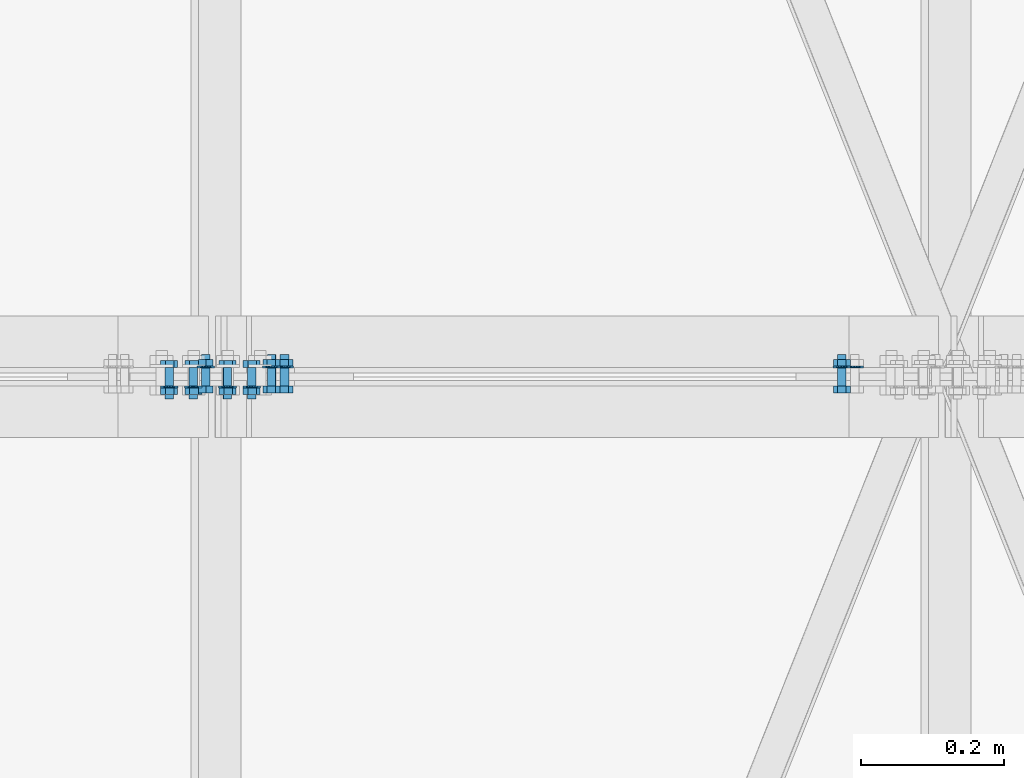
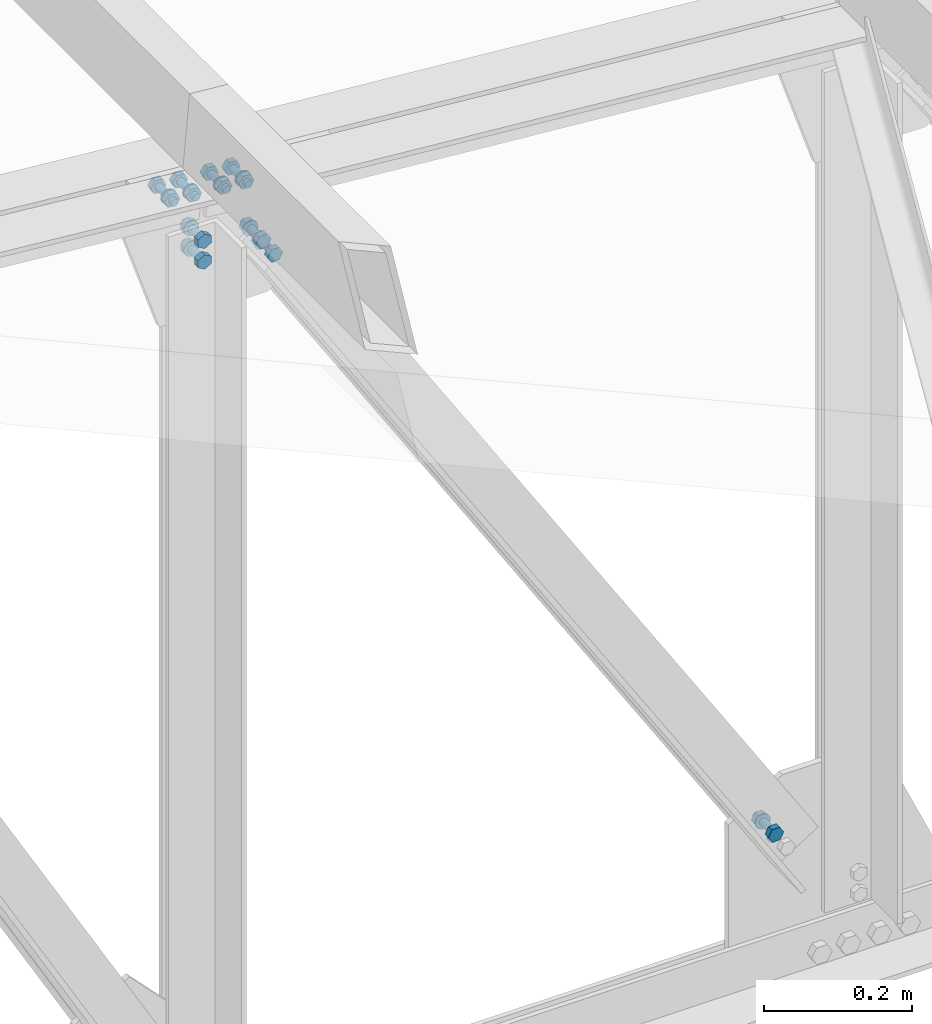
# One storey, part 85 of 251: 37 mechanical fasteners.
"""IFC4 building model written with IfcOpenShell, lengths in metres."""

from ifc_helpers import new_model, si_unit, frame, origin_with_axes, place, context, project, spatial, polyline, outline, extrude, type_object, element, save


model = new_model("IFC4")

# Units and contexts
model_context = context("Model", 3, precision=1e-05, world=origin_with_axes())
ifc_project = project(units=[si_unit("LENGTHUNIT", "METRE"), si_unit("AREAUNIT", "SQUARE_METRE"), si_unit("VOLUMEUNIT", "CUBIC_METRE"), si_unit("MASSUNIT", "GRAM", prefix="KILO"), si_unit("TIMEUNIT", "SECOND"), si_unit("PLANEANGLEUNIT", "RADIAN"), si_unit("SOLIDANGLEUNIT", "STERADIAN"), si_unit("THERMODYNAMICTEMPERATUREUNIT", "DEGREE_CELSIUS")], contexts=[model_context])

# Site, building, storey
placement_1 = place(None, origin_with_axes())
site = spatial("IfcSite", under=ifc_project, at=placement_1, Name="Italia", CompositionType="ELEMENT")
building = spatial("IfcBuilding", under=site, at=placement_1, Name="Deposito", CompositionType="ELEMENT")
storey = spatial("IfcBuildingStorey", under=building, at=placement_1, Name="Storey 0", CompositionType="ELEMENT", Elevation=0.0)

# Mechanical fasteners
mechanical_fastener_type_1 = type_object("IfcMechanicalFastenerType", Name="Reticolare 3", PredefinedType="BOLT")
placement_2 = place(placement_1, origin_with_axes())
mechanical_fastener_1_placement = place(placement_2, origin_with_axes())
element("IfcMechanicalFastener", 1, at=mechanical_fastener_1_placement, inside=storey, type_object=mechanical_fastener_type_1, Name="Reticolare 3", NominalDiameter=0.024, context=model_context, shape_type="SweptSolid", body=[
    extrude(outline(polyline([(0.0, 0.0), (-0.000409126, -0.00310564), (-0.00160789, -0.00600004), (-0.00351524, -0.00848532), (-0.00600052, -0.0103922), (-0.00889397, -0.011591), (-0.0120001, -0.0120001), (-0.0151062, -0.011591), (-0.0179996, -0.0103922), (-0.0204849, -0.00848532), (-0.0223923, -0.00600004), (-0.023591, -0.00310564), (-0.0240002, 0.0), (-0.023591, 0.00310564), (-0.0223923, 0.00600004), (-0.0204849, 0.00848532), (-0.0179996, 0.0103922), (-0.0151062, 0.011591), (-0.0120001, 0.0120001), (-0.00889397, 0.011591), (-0.00600052, 0.0103922), (-0.00351524, 0.00848532), (-0.00160789, 0.00600004), (-0.000409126, 0.00310564), (0.0, 0.0)])), frame((13.9145, 5.015, 5.20248), z_axis=(0.0, -1.0, 0.0), x_axis=(1.0, 0.0, 0.0)), (0.0, 0.0, 1.0), 0.00199986),
])
mechanical_fastener_type_2 = type_object("IfcMechanicalFastenerType", Name="Reticolare 3", PredefinedType="BOLT")
mechanical_fastener_2_placement = place(placement_2, origin_with_axes())
element("IfcMechanicalFastener", 2, at=mechanical_fastener_2_placement, inside=storey, type_object=mechanical_fastener_type_2, Name="Reticolare 3", NominalDiameter=0.0119994, context=model_context, shape_type="SweptSolid", body=[
    extrude(outline(polyline([(0.0, 0.0), (-0.00643444, 0.010129), (-0.000879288, 0.0207663), (0.0111094, 0.0212741), (0.0175438, 0.0111451), (0.0119896, 0.000508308), (0.0, 0.0)])), frame((13.8787, 4.987, 5.22054), z_axis=(0.0, -1.0, 0.0), x_axis=(1.0, 0.0, 0.0)), (0.0, 0.0, 1.0), 0.00960016),
])
mechanical_fastener_type_3 = type_object("IfcMechanicalFastenerType", Name="Reticolare 3", PredefinedType="BOLT")
mechanical_fastener_3_placement = place(placement_2, origin_with_axes())
element("IfcMechanicalFastener", 3, at=mechanical_fastener_3_placement, inside=storey, type_object=mechanical_fastener_type_3, Name="Reticolare 3", NominalDiameter=0.012, context=model_context, shape_type="SweptSolid", body=[
    extrude(outline(polyline([(0.0, 0.0), (-0.000204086, -0.00155306), (-0.000802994, -0.00299978), (-0.00175667, -0.00424242), (-0.00299931, -0.00519609), (-0.00444698, -0.00579548), (-0.00599957, -0.00600004), (-0.00755215, -0.00579548), (-0.00899982, -0.00519609), (-0.0102425, -0.00424242), (-0.0111961, -0.00299978), (-0.011795, -0.00155306), (-0.0119991, 0.0), (-0.011795, 0.00155306), (-0.0111961, 0.00299978), (-0.0102425, 0.00424242), (-0.00899982, 0.00519609), (-0.00755215, 0.00579548), (-0.00599957, 0.00600004), (-0.00444698, 0.00579548), (-0.00299931, 0.00519609), (-0.00175667, 0.00424242), (-0.000802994, 0.00299978), (-0.000204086, 0.00155306), (0.0, 0.0)])), frame((13.8903, 5.031, 5.23117), z_axis=(0.0, -1.0, 0.0), x_axis=(1.0, 0.0, 0.0)), (0.0, 0.0, 1.0), 0.0440001),
])
mechanical_fastener_type_4 = type_object("IfcMechanicalFastenerType", Name="Reticolare 3", PredefinedType="BOLT")
mechanical_fastener_4_placement = place(placement_2, origin_with_axes())
element("IfcMechanicalFastener", 4, at=mechanical_fastener_4_placement, inside=storey, type_object=mechanical_fastener_type_4, Name="Reticolare 3", NominalDiameter=0.0119994, context=model_context, shape_type="SweptSolid", body=[
    extrude(outline(polyline([(0.0, 0.0), (-0.00643444, 0.010129), (-0.000879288, 0.0207663), (0.0111094, 0.0212741), (0.0175438, 0.0111451), (0.0119896, 0.000508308), (0.0, 0.0)])), frame((13.8787, 5.0246, 5.22054), z_axis=(0.0, -1.0, 0.0), x_axis=(1.0, 0.0, 0.0)), (0.0, 0.0, 1.0), 0.00960016),
])
mechanical_fastener_type_5 = type_object("IfcMechanicalFastenerType", Name="Reticolare 3", PredefinedType="BOLT")
mechanical_fastener_5_placement = place(placement_2, origin_with_axes())
element("IfcMechanicalFastener", 5, at=mechanical_fastener_5_placement, inside=storey, type_object=mechanical_fastener_type_5, Name="Reticolare 3", NominalDiameter=0.024, context=model_context, shape_type="SweptSolid", body=[
    extrude(outline(polyline([(0.0, 0.0), (-0.000409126, -0.00310564), (-0.00160789, -0.00600004), (-0.00351524, -0.00848532), (-0.00600052, -0.0103922), (-0.00889397, -0.011591), (-0.0120001, -0.0120001), (-0.0151062, -0.011591), (-0.0179996, -0.0103922), (-0.0204849, -0.00848532), (-0.0223923, -0.00600004), (-0.023591, -0.00310564), (-0.0240002, 0.0), (-0.023591, 0.00310564), (-0.0223923, 0.00600004), (-0.0204849, 0.00848532), (-0.0179996, 0.0103922), (-0.0151062, 0.011591), (-0.0120001, 0.0120001), (-0.00889397, 0.011591), (-0.00600052, 0.0103922), (-0.00351524, 0.00848532), (-0.00160789, 0.00600004), (-0.000409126, 0.00310564), (0.0, 0.0)])), frame((13.8963, 5.015, 5.23117), z_axis=(0.0, -1.0, 0.0), x_axis=(1.0, 0.0, 0.0)), (0.0, 0.0, 1.0), 0.00199986),
])
mechanical_fastener_type_6 = type_object("IfcMechanicalFastenerType", Name="Reticolare 3", PredefinedType="BOLT")
mechanical_fastener_6_placement = place(placement_2, origin_with_axes())
element("IfcMechanicalFastener", 6, at=mechanical_fastener_6_placement, inside=storey, type_object=mechanical_fastener_type_6, Name="Reticolare 3", NominalDiameter=0.0119996, context=model_context, shape_type="SweptSolid", body=[
    extrude(outline(polyline([(0.0, 0.0), (0.0119572, 0.001019), (0.0188179, -0.00882626), (0.0137215, -0.0196905), (0.00176525, -0.0207095), (-0.00509548, -0.0108643), (0.0, 0.0)])), frame((13.0302, 5.013, 6.61092), z_axis=(0.0, 1.0, 0.0), x_axis=(-1.0, 0.0, 0.0)), (0.0, 0.0, 1.0), 0.00960016),
])
mechanical_fastener_type_7 = type_object("IfcMechanicalFastenerType", Name="Reticolare 3", PredefinedType="BOLT")
mechanical_fastener_7_placement = place(placement_2, origin_with_axes())
element("IfcMechanicalFastener", 7, at=mechanical_fastener_7_placement, inside=storey, type_object=mechanical_fastener_type_7, Name="Reticolare 3", NominalDiameter=0.012, context=model_context, shape_type="SweptSolid", body=[
    extrude(outline(polyline([(0.0, 0.0), (-0.000204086, -0.00155306), (-0.000802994, -0.00299978), (-0.00175667, -0.00424242), (-0.00299931, -0.00519609), (-0.00444698, -0.00579548), (-0.00599957, -0.00600004), (-0.00755215, -0.00579548), (-0.00899982, -0.00519609), (-0.0102425, -0.00424242), (-0.0111961, -0.00299978), (-0.011795, -0.00155306), (-0.0119991, 0.0), (-0.011795, 0.00155306), (-0.0111961, 0.00299978), (-0.0102425, 0.00424242), (-0.00899982, 0.00519609), (-0.00755215, 0.00579548), (-0.00599957, 0.00600004), (-0.00444698, 0.00579548), (-0.00299931, 0.00519609), (-0.00175667, 0.00424242), (-0.000802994, 0.00299978), (-0.000204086, 0.00155306), (0.0, 0.0)])), frame((13.0173, 4.969, 6.60108), z_axis=(0.0, 1.0, 0.0), x_axis=(-1.0, 0.0, 0.0)), (0.0, 0.0, 1.0), 0.0440001),
])
mechanical_fastener_type_8 = type_object("IfcMechanicalFastenerType", Name="Reticolare 3", PredefinedType="BOLT")
mechanical_fastener_8_placement = place(placement_2, origin_with_axes())
element("IfcMechanicalFastener", 8, at=mechanical_fastener_8_placement, inside=storey, type_object=mechanical_fastener_type_8, Name="Reticolare 3", NominalDiameter=0.0119996, context=model_context, shape_type="SweptSolid", body=[
    extrude(outline(polyline([(0.0, 0.0), (0.0119572, 0.001019), (0.0188179, -0.00882626), (0.0137215, -0.0196905), (0.00176525, -0.0207095), (-0.00509548, -0.0108643), (0.0, 0.0)])), frame((13.0302, 4.9754, 6.61092), z_axis=(0.0, 1.0, 0.0), x_axis=(-1.0, 0.0, 0.0)), (0.0, 0.0, 1.0), 0.00960016),
])
mechanical_fastener_type_9 = type_object("IfcMechanicalFastenerType", Name="Reticolare 3", PredefinedType="BOLT")
mechanical_fastener_9_placement = place(placement_2, origin_with_axes())
element("IfcMechanicalFastener", 9, at=mechanical_fastener_9_placement, inside=storey, type_object=mechanical_fastener_type_9, Name="Reticolare 3", NominalDiameter=0.024, context=model_context, shape_type="SweptSolid", body=[
    extrude(outline(polyline([(0.0, 0.0), (-0.000409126, -0.00310564), (-0.00160789, -0.00600004), (-0.00351524, -0.00848532), (-0.00600052, -0.0103922), (-0.00889397, -0.011591), (-0.0120001, -0.0120001), (-0.0151062, -0.011591), (-0.0179996, -0.0103922), (-0.0204849, -0.00848532), (-0.0223923, -0.00600004), (-0.023591, -0.00310564), (-0.0240002, 0.0), (-0.023591, 0.00310564), (-0.0223923, 0.00600004), (-0.0204849, 0.00848532), (-0.0179996, 0.0103922), (-0.0151062, 0.011591), (-0.0120001, 0.0120001), (-0.00889397, 0.011591), (-0.00600052, 0.0103922), (-0.00351524, 0.00848532), (-0.00160789, 0.00600004), (-0.000409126, 0.00310564), (0.0, 0.0)])), frame((13.0113, 4.985, 6.60108), z_axis=(0.0, 1.0, 0.0), x_axis=(-1.0, 0.0, 0.0)), (0.0, 0.0, 1.0), 0.00199986),
])
mechanical_fastener_type_10 = type_object("IfcMechanicalFastenerType", Name="Reticolare 3", PredefinedType="BOLT")
mechanical_fastener_10_placement = place(placement_2, origin_with_axes())
element("IfcMechanicalFastener", 10, at=mechanical_fastener_10_placement, inside=storey, type_object=mechanical_fastener_type_10, Name="Reticolare 3", NominalDiameter=0.0119996, context=model_context, shape_type="SweptSolid", body=[
    extrude(outline(polyline([(0.0, 0.0), (0.0119572, 0.001019), (0.0188179, -0.00882626), (0.0137215, -0.0196905), (0.00176525, -0.0207095), (-0.00509548, -0.0108643), (0.0, 0.0)])), frame((13.0641, 5.013, 6.60803), z_axis=(0.0, 1.0, 0.0), x_axis=(-1.0, 0.0, 0.0)), (0.0, 0.0, 1.0), 0.00960016),
])
mechanical_fastener_type_11 = type_object("IfcMechanicalFastenerType", Name="Reticolare 3", PredefinedType="BOLT")
mechanical_fastener_11_placement = place(placement_2, origin_with_axes())
element("IfcMechanicalFastener", 11, at=mechanical_fastener_11_placement, inside=storey, type_object=mechanical_fastener_type_11, Name="Reticolare 3", NominalDiameter=0.012, context=model_context, shape_type="SweptSolid", body=[
    extrude(outline(polyline([(0.0, 0.0), (-0.000204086, -0.00155306), (-0.000802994, -0.00299978), (-0.00175667, -0.00424242), (-0.00299931, -0.00519609), (-0.00444698, -0.00579548), (-0.00599957, -0.00600004), (-0.00755215, -0.00579548), (-0.00899982, -0.00519609), (-0.0102425, -0.00424242), (-0.0111961, -0.00299978), (-0.011795, -0.00155306), (-0.0119991, 0.0), (-0.011795, 0.00155306), (-0.0111961, 0.00299978), (-0.0102425, 0.00424242), (-0.00899982, 0.00519609), (-0.00755215, 0.00579548), (-0.00599957, 0.00600004), (-0.00444698, 0.00579548), (-0.00299931, 0.00519609), (-0.00175667, 0.00424242), (-0.000802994, 0.00299978), (-0.000204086, 0.00155306), (0.0, 0.0)])), frame((13.0512, 4.969, 6.59819), z_axis=(0.0, 1.0, 0.0), x_axis=(-1.0, 0.0, 0.0)), (0.0, 0.0, 1.0), 0.0440001),
])
mechanical_fastener_type_12 = type_object("IfcMechanicalFastenerType", Name="Reticolare 3", PredefinedType="BOLT")
mechanical_fastener_12_placement = place(placement_2, origin_with_axes())
element("IfcMechanicalFastener", 12, at=mechanical_fastener_12_placement, inside=storey, type_object=mechanical_fastener_type_12, Name="Reticolare 3", NominalDiameter=0.0119996, context=model_context, shape_type="SweptSolid", body=[
    extrude(outline(polyline([(0.0, 0.0), (0.0119572, 0.001019), (0.0188179, -0.00882626), (0.0137215, -0.0196905), (0.00176525, -0.0207095), (-0.00509548, -0.0108643), (0.0, 0.0)])), frame((13.0641, 4.9754, 6.60803), z_axis=(0.0, 1.0, 0.0), x_axis=(-1.0, 0.0, 0.0)), (0.0, 0.0, 1.0), 0.00960016),
])
mechanical_fastener_type_13 = type_object("IfcMechanicalFastenerType", Name="Reticolare 3", PredefinedType="BOLT")
mechanical_fastener_13_placement = place(placement_2, origin_with_axes())
element("IfcMechanicalFastener", 13, at=mechanical_fastener_13_placement, inside=storey, type_object=mechanical_fastener_type_13, Name="Reticolare 3", NominalDiameter=0.024, context=model_context, shape_type="SweptSolid", body=[
    extrude(outline(polyline([(0.0, 0.0), (-0.000409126, -0.00310564), (-0.00160789, -0.00600004), (-0.00351524, -0.00848532), (-0.00600052, -0.0103922), (-0.00889397, -0.011591), (-0.0120001, -0.0120001), (-0.0151062, -0.011591), (-0.0179996, -0.0103922), (-0.0204849, -0.00848532), (-0.0223923, -0.00600004), (-0.023591, -0.00310564), (-0.0240002, 0.0), (-0.023591, 0.00310564), (-0.0223923, 0.00600004), (-0.0204849, 0.00848532), (-0.0179996, 0.0103922), (-0.0151062, 0.011591), (-0.0120001, 0.0120001), (-0.00889397, 0.011591), (-0.00600052, 0.0103922), (-0.00351524, 0.00848532), (-0.00160789, 0.00600004), (-0.000409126, 0.00310564), (0.0, 0.0)])), frame((13.0452, 4.985, 6.59819), z_axis=(0.0, 1.0, 0.0), x_axis=(-1.0, 0.0, 0.0)), (0.0, 0.0, 1.0), 0.00199986),
])
mechanical_fastener_type_14 = type_object("IfcMechanicalFastenerType", Name="Reticolare 3", PredefinedType="BOLT")
mechanical_fastener_14_placement = place(placement_2, origin_with_axes())
element("IfcMechanicalFastener", 14, at=mechanical_fastener_14_placement, inside=storey, type_object=mechanical_fastener_type_14, Name="Reticolare 3", NominalDiameter=0.0119996, context=model_context, shape_type="SweptSolid", body=[
    extrude(outline(polyline([(0.0, 0.0), (0.0119524, 0.00107431), (0.018858, -0.00873947), (0.013813, -0.0196271), (0.00186157, -0.0207014), (-0.00504494, -0.0108881), (0.0, 0.0)])), frame((12.9824, 5.013, 6.61508), z_axis=(0.0, 1.0, 0.0), x_axis=(-1.0, 0.0, 0.0)), (0.0, 0.0, 1.0), 0.00960016),
])
mechanical_fastener_type_15 = type_object("IfcMechanicalFastenerType", Name="Reticolare 3", PredefinedType="BOLT")
mechanical_fastener_15_placement = place(placement_2, origin_with_axes())
element("IfcMechanicalFastener", 15, at=mechanical_fastener_15_placement, inside=storey, type_object=mechanical_fastener_type_15, Name="Reticolare 3", NominalDiameter=0.012, context=model_context, shape_type="SweptSolid", body=[
    extrude(outline(polyline([(0.0, 0.0), (-0.000204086, -0.00155306), (-0.000802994, -0.00299978), (-0.00175667, -0.00424242), (-0.00299931, -0.00519609), (-0.00444698, -0.00579548), (-0.00599957, -0.00600004), (-0.00755215, -0.00579548), (-0.00899982, -0.00519609), (-0.0102425, -0.00424242), (-0.0111961, -0.00299978), (-0.011795, -0.00155306), (-0.0119991, 0.0), (-0.011795, 0.00155306), (-0.0111961, 0.00299978), (-0.0102425, 0.00424242), (-0.00899982, 0.00519609), (-0.00755215, 0.00579548), (-0.00599957, 0.00600004), (-0.00444698, 0.00579548), (-0.00299931, 0.00519609), (-0.00175667, 0.00424242), (-0.000802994, 0.00299978), (-0.000204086, 0.00155306), (0.0, 0.0)])), frame((12.9694, 4.969, 6.60527), z_axis=(0.0, 1.0, 0.0), x_axis=(-1.0, 0.0, 0.0)), (0.0, 0.0, 1.0), 0.0440001),
])
mechanical_fastener_type_16 = type_object("IfcMechanicalFastenerType", Name="Reticolare 3", PredefinedType="BOLT")
mechanical_fastener_16_placement = place(placement_2, origin_with_axes())
element("IfcMechanicalFastener", 16, at=mechanical_fastener_16_placement, inside=storey, type_object=mechanical_fastener_type_16, Name="Reticolare 3", NominalDiameter=0.0119996, context=model_context, shape_type="SweptSolid", body=[
    extrude(outline(polyline([(0.0, 0.0), (0.0119524, 0.00107431), (0.018858, -0.00873947), (0.013813, -0.0196271), (0.00186157, -0.0207014), (-0.00504494, -0.0108881), (0.0, 0.0)])), frame((12.9824, 4.9754, 6.61508), z_axis=(0.0, 1.0, 0.0), x_axis=(-1.0, 0.0, 0.0)), (0.0, 0.0, 1.0), 0.00960016),
])
mechanical_fastener_type_17 = type_object("IfcMechanicalFastenerType", Name="Reticolare 3", PredefinedType="BOLT")
mechanical_fastener_17_placement = place(placement_2, origin_with_axes())
element("IfcMechanicalFastener", 17, at=mechanical_fastener_17_placement, inside=storey, type_object=mechanical_fastener_type_17, Name="Reticolare 3", NominalDiameter=0.024, context=model_context, shape_type="SweptSolid", body=[
    extrude(outline(polyline([(0.0, 0.0), (-0.000409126, -0.00310564), (-0.00160789, -0.00600004), (-0.00351524, -0.00848532), (-0.00600052, -0.0103922), (-0.00889397, -0.011591), (-0.0120001, -0.0120001), (-0.0151062, -0.011591), (-0.0179996, -0.0103922), (-0.0204849, -0.00848532), (-0.0223923, -0.00600004), (-0.023591, -0.00310564), (-0.0240002, 0.0), (-0.023591, 0.00310564), (-0.0223923, 0.00600004), (-0.0204849, 0.00848532), (-0.0179996, 0.0103922), (-0.0151062, 0.011591), (-0.0120001, 0.0120001), (-0.00889397, 0.011591), (-0.00600052, 0.0103922), (-0.00351524, 0.00848532), (-0.00160789, 0.00600004), (-0.000409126, 0.00310564), (0.0, 0.0)])), frame((12.9634, 4.985, 6.60527), z_axis=(0.0, 1.0, 0.0), x_axis=(-1.0, 0.0, 0.0)), (0.0, 0.0, 1.0), 0.00199986),
])
mechanical_fastener_type_18 = type_object("IfcMechanicalFastenerType", Name="Reticolare 3", PredefinedType="BOLT")
mechanical_fastener_18_placement = place(placement_2, origin_with_axes())
element("IfcMechanicalFastener", 18, at=mechanical_fastener_18_placement, inside=storey, type_object=mechanical_fastener_type_18, Name="Reticolare 3", NominalDiameter=0.0119996, context=model_context, shape_type="SweptSolid", body=[
    extrude(outline(polyline([(0.0, 0.0), (0.0119514, 0.00107479), (0.018858, -0.00873899), (0.0138121, -0.0196266), (0.00186062, -0.0207009), (-0.00504589, -0.0108876), (0.0, 0.0)])), frame((12.9485, 5.013, 6.61813), z_axis=(0.0, 1.0, 0.0), x_axis=(-1.0, 0.0, 0.0)), (0.0, 0.0, 1.0), 0.00960016),
])
mechanical_fastener_type_19 = type_object("IfcMechanicalFastenerType", Name="Reticolare 3", PredefinedType="BOLT")
mechanical_fastener_19_placement = place(placement_2, origin_with_axes())
element("IfcMechanicalFastener", 19, at=mechanical_fastener_19_placement, inside=storey, type_object=mechanical_fastener_type_19, Name="Reticolare 3", NominalDiameter=0.012, context=model_context, shape_type="SweptSolid", body=[
    extrude(outline(polyline([(0.0, 0.0), (-0.000204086, -0.00155306), (-0.000802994, -0.00299978), (-0.00175667, -0.00424242), (-0.00299931, -0.00519609), (-0.00444698, -0.00579548), (-0.00599957, -0.00600004), (-0.00755215, -0.00579548), (-0.00899982, -0.00519609), (-0.0102425, -0.00424242), (-0.0111961, -0.00299978), (-0.011795, -0.00155306), (-0.0119991, 0.0), (-0.011795, 0.00155306), (-0.0111961, 0.00299978), (-0.0102425, 0.00424242), (-0.00899982, 0.00519609), (-0.00755215, 0.00579548), (-0.00599957, 0.00600004), (-0.00444698, 0.00579548), (-0.00299931, 0.00519609), (-0.00175667, 0.00424242), (-0.000802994, 0.00299978), (-0.000204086, 0.00155306), (0.0, 0.0)])), frame((12.9356, 4.969, 6.60831), z_axis=(0.0, 1.0, 0.0), x_axis=(-1.0, 0.0, 0.0)), (0.0, 0.0, 1.0), 0.0440001),
])
mechanical_fastener_type_20 = type_object("IfcMechanicalFastenerType", Name="Reticolare 3", PredefinedType="BOLT")
mechanical_fastener_20_placement = place(placement_2, origin_with_axes())
element("IfcMechanicalFastener", 20, at=mechanical_fastener_20_placement, inside=storey, type_object=mechanical_fastener_type_20, Name="Reticolare 3", NominalDiameter=0.0119996, context=model_context, shape_type="SweptSolid", body=[
    extrude(outline(polyline([(0.0, 0.0), (0.0119514, 0.00107479), (0.018858, -0.00873899), (0.0138121, -0.0196266), (0.00186062, -0.0207009), (-0.00504589, -0.0108876), (0.0, 0.0)])), frame((12.9485, 4.9754, 6.61813), z_axis=(0.0, 1.0, 0.0), x_axis=(-1.0, 0.0, 0.0)), (0.0, 0.0, 1.0), 0.00960016),
])
mechanical_fastener_type_21 = type_object("IfcMechanicalFastenerType", Name="Reticolare 3", PredefinedType="BOLT")
mechanical_fastener_21_placement = place(placement_2, origin_with_axes())
element("IfcMechanicalFastener", 21, at=mechanical_fastener_21_placement, inside=storey, type_object=mechanical_fastener_type_21, Name="Reticolare 3", NominalDiameter=0.024, context=model_context, shape_type="SweptSolid", body=[
    extrude(outline(polyline([(0.0, 0.0), (-0.000409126, -0.00310564), (-0.00160789, -0.00600004), (-0.00351524, -0.00848532), (-0.00600052, -0.0103922), (-0.00889397, -0.011591), (-0.0120001, -0.0120001), (-0.0151062, -0.011591), (-0.0179996, -0.0103922), (-0.0204849, -0.00848532), (-0.0223923, -0.00600004), (-0.023591, -0.00310564), (-0.0240002, 0.0), (-0.023591, 0.00310564), (-0.0223923, 0.00600004), (-0.0204849, 0.00848532), (-0.0179996, 0.0103922), (-0.0151062, 0.011591), (-0.0120001, 0.0120001), (-0.00889397, 0.011591), (-0.00600052, 0.0103922), (-0.00351524, 0.00848532), (-0.00160789, 0.00600004), (-0.000409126, 0.00310564), (0.0, 0.0)])), frame((12.9296, 4.985, 6.60831), z_axis=(0.0, 1.0, 0.0), x_axis=(-1.0, 0.0, 0.0)), (0.0, 0.0, 1.0), 0.00199986),
])
mechanical_fastener_type_22 = type_object("IfcMechanicalFastenerType", Name="Reticolare 3", PredefinedType="BOLT")
mechanical_fastener_22_placement = place(placement_2, origin_with_axes())
element("IfcMechanicalFastener", 22, at=mechanical_fastener_22_placement, inside=storey, type_object=mechanical_fastener_type_22, Name="Reticolare 3", NominalDiameter=0.0119999, context=model_context, shape_type="SweptSolid", body=[
    extrude(outline(polyline([(0.0, 0.0), (0.0, -0.0120001), (-0.0103922, -0.0180001), (-0.0207844, -0.0120001), (-0.0207844, 0.0), (-0.0103922, 0.00600004), (0.0, 0.0)])), frame((13.0034, 4.987, 6.52739), z_axis=(0.0, -1.0, 0.0), x_axis=(1.0, 0.0, 0.0)), (0.0, 0.0, 1.0), 0.00960016),
])
mechanical_fastener_type_23 = type_object("IfcMechanicalFastenerType", Name="Reticolare 3", PredefinedType="BOLT")
mechanical_fastener_23_placement = place(placement_2, origin_with_axes())
element("IfcMechanicalFastener", 23, at=mechanical_fastener_23_placement, inside=storey, type_object=mechanical_fastener_type_23, Name="Reticolare 3", NominalDiameter=0.012, context=model_context, shape_type="SweptSolid", body=[
    extrude(outline(polyline([(0.0, 0.0), (-0.000204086, -0.00155306), (-0.000802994, -0.00299978), (-0.00175667, -0.00424242), (-0.00299931, -0.00519609), (-0.00444698, -0.00579548), (-0.00599957, -0.00600004), (-0.00755215, -0.00579548), (-0.00899982, -0.00519609), (-0.0102425, -0.00424242), (-0.0111961, -0.00299978), (-0.011795, -0.00155306), (-0.0119991, 0.0), (-0.011795, 0.00155306), (-0.0111961, 0.00299978), (-0.0102425, 0.00424242), (-0.00899982, 0.00519609), (-0.00755215, 0.00579548), (-0.00599957, 0.00600004), (-0.00444698, 0.00579548), (-0.00299931, 0.00519609), (-0.00175667, 0.00424242), (-0.000802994, 0.00299978), (-0.000204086, 0.00155306), (0.0, 0.0)])), frame((12.999, 5.031, 6.52139), z_axis=(0.0, -1.0, 0.0), x_axis=(1.0, 0.0, 0.0)), (0.0, 0.0, 1.0), 0.0440001),
])
mechanical_fastener_type_24 = type_object("IfcMechanicalFastenerType", Name="Reticolare 3", PredefinedType="BOLT")
mechanical_fastener_24_placement = place(placement_2, origin_with_axes())
element("IfcMechanicalFastener", 24, at=mechanical_fastener_24_placement, inside=storey, type_object=mechanical_fastener_type_24, Name="Reticolare 3", NominalDiameter=0.0119999, context=model_context, shape_type="SweptSolid", body=[
    extrude(outline(polyline([(0.0, 0.0), (0.0, -0.0120001), (-0.0103922, -0.0180001), (-0.0207844, -0.0120001), (-0.0207844, 0.0), (-0.0103922, 0.00600004), (0.0, 0.0)])), frame((13.0034, 5.0246, 6.52739), z_axis=(0.0, -1.0, 0.0), x_axis=(1.0, 0.0, 0.0)), (0.0, 0.0, 1.0), 0.00960016),
])
mechanical_fastener_type_25 = type_object("IfcMechanicalFastenerType", Name="Reticolare 3", PredefinedType="BOLT")
mechanical_fastener_25_placement = place(placement_2, origin_with_axes())
element("IfcMechanicalFastener", 25, at=mechanical_fastener_25_placement, inside=storey, type_object=mechanical_fastener_type_25, Name="Reticolare 3", NominalDiameter=0.024, context=model_context, shape_type="SweptSolid", body=[
    extrude(outline(polyline([(0.0, 0.0), (-0.000409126, -0.00310564), (-0.00160789, -0.00600004), (-0.00351524, -0.00848532), (-0.00600052, -0.0103922), (-0.00889397, -0.011591), (-0.0120001, -0.0120001), (-0.0151062, -0.011591), (-0.0179996, -0.0103922), (-0.0204849, -0.00848532), (-0.0223923, -0.00600004), (-0.023591, -0.00310564), (-0.0240002, 0.0), (-0.023591, 0.00310564), (-0.0223923, 0.00600004), (-0.0204849, 0.00848532), (-0.0179996, 0.0103922), (-0.0151062, 0.011591), (-0.0120001, 0.0120001), (-0.00889397, 0.011591), (-0.00600052, 0.0103922), (-0.00351524, 0.00848532), (-0.00160789, 0.00600004), (-0.000409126, 0.00310564), (0.0, 0.0)])), frame((13.005, 5.015, 6.52139), z_axis=(0.0, -1.0, 0.0), x_axis=(1.0, 0.0, 0.0)), (0.0, 0.0, 1.0), 0.00199986),
])
mechanical_fastener_type_26 = type_object("IfcMechanicalFastenerType", Name="Reticolare 3", PredefinedType="BOLT")
mechanical_fastener_26_placement = place(placement_2, origin_with_axes())
element("IfcMechanicalFastener", 26, at=mechanical_fastener_26_placement, inside=storey, type_object=mechanical_fastener_type_26, Name="Reticolare 3", NominalDiameter=0.0119999, context=model_context, shape_type="SweptSolid", body=[
    extrude(outline(polyline([(0.0, 0.0), (0.0, -0.0120001), (-0.0103922, -0.0180001), (-0.0207844, -0.0120001), (-0.0207844, 0.0), (-0.0103922, 0.00600004), (0.0, 0.0)])), frame((13.0034, 4.987, 6.49339), z_axis=(0.0, -1.0, 0.0), x_axis=(1.0, 0.0, 0.0)), (0.0, 0.0, 1.0), 0.00960016),
])
mechanical_fastener_type_27 = type_object("IfcMechanicalFastenerType", Name="Reticolare 3", PredefinedType="BOLT")
mechanical_fastener_27_placement = place(placement_2, origin_with_axes())
element("IfcMechanicalFastener", 27, at=mechanical_fastener_27_placement, inside=storey, type_object=mechanical_fastener_type_27, Name="Reticolare 3", NominalDiameter=0.012, context=model_context, shape_type="SweptSolid", body=[
    extrude(outline(polyline([(0.0, 0.0), (-0.000204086, -0.00155306), (-0.000802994, -0.00299978), (-0.00175667, -0.00424242), (-0.00299931, -0.00519609), (-0.00444698, -0.00579548), (-0.00599957, -0.00600004), (-0.00755215, -0.00579548), (-0.00899982, -0.00519609), (-0.0102425, -0.00424242), (-0.0111961, -0.00299978), (-0.011795, -0.00155306), (-0.0119991, 0.0), (-0.011795, 0.00155306), (-0.0111961, 0.00299978), (-0.0102425, 0.00424242), (-0.00899982, 0.00519609), (-0.00755215, 0.00579548), (-0.00599957, 0.00600004), (-0.00444698, 0.00579548), (-0.00299931, 0.00519609), (-0.00175667, 0.00424242), (-0.000802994, 0.00299978), (-0.000204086, 0.00155306), (0.0, 0.0)])), frame((12.999, 5.031, 6.48739), z_axis=(0.0, -1.0, 0.0), x_axis=(1.0, 0.0, 0.0)), (0.0, 0.0, 1.0), 0.0440001),
])
mechanical_fastener_type_28 = type_object("IfcMechanicalFastenerType", Name="Reticolare 3", PredefinedType="BOLT")
mechanical_fastener_28_placement = place(placement_2, origin_with_axes())
element("IfcMechanicalFastener", 28, at=mechanical_fastener_28_placement, inside=storey, type_object=mechanical_fastener_type_28, Name="Reticolare 3", NominalDiameter=0.0119999, context=model_context, shape_type="SweptSolid", body=[
    extrude(outline(polyline([(0.0, 0.0), (0.0, -0.0120001), (-0.0103922, -0.0180001), (-0.0207844, -0.0120001), (-0.0207844, 0.0), (-0.0103922, 0.00600004), (0.0, 0.0)])), frame((13.0034, 5.0246, 6.49339), z_axis=(0.0, -1.0, 0.0), x_axis=(1.0, 0.0, 0.0)), (0.0, 0.0, 1.0), 0.00960016),
])
mechanical_fastener_type_29 = type_object("IfcMechanicalFastenerType", Name="Reticolare 3", PredefinedType="BOLT")
mechanical_fastener_29_placement = place(placement_2, origin_with_axes())
element("IfcMechanicalFastener", 29, at=mechanical_fastener_29_placement, inside=storey, type_object=mechanical_fastener_type_29, Name="Reticolare 3", NominalDiameter=0.024, context=model_context, shape_type="SweptSolid", body=[
    extrude(outline(polyline([(0.0, 0.0), (-0.000409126, -0.00310564), (-0.00160789, -0.00600004), (-0.00351524, -0.00848532), (-0.00600052, -0.0103922), (-0.00889397, -0.011591), (-0.0120001, -0.0120001), (-0.0151062, -0.011591), (-0.0179996, -0.0103922), (-0.0204849, -0.00848532), (-0.0223923, -0.00600004), (-0.023591, -0.00310564), (-0.0240002, 0.0), (-0.023591, 0.00310564), (-0.0223923, 0.00600004), (-0.0204849, 0.00848532), (-0.0179996, 0.0103922), (-0.0151062, 0.011591), (-0.0120001, 0.0120001), (-0.00889397, 0.011591), (-0.00600052, 0.0103922), (-0.00351524, 0.00848532), (-0.00160789, 0.00600004), (-0.000409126, 0.00310564), (0.0, 0.0)])), frame((13.005, 5.015, 6.48739), z_axis=(0.0, -1.0, 0.0), x_axis=(1.0, 0.0, 0.0)), (0.0, 0.0, 1.0), 0.00199986),
])
mechanical_fastener_type_30 = type_object("IfcMechanicalFastenerType", Name="Reticolare 3", PredefinedType="BOLT")
mechanical_fastener_30_placement = place(placement_2, origin_with_axes())
element("IfcMechanicalFastener", 30, at=mechanical_fastener_30_placement, inside=storey, type_object=mechanical_fastener_type_30, Name="Reticolare 3", NominalDiameter=0.0119996, context=model_context, shape_type="SweptSolid", body=[
    extrude(outline(polyline([(0.0, 0.0), (-0.00643444, 0.010129), (-0.000880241, 0.0207658), (0.0111094, 0.0212741), (0.0175438, 0.0111451), (0.0119896, 0.000507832), (0.0, 0.0)])), frame((13.0795, 4.987, 6.47855), z_axis=(0.0, -1.0, 0.0), x_axis=(1.0, 0.0, 0.0)), (0.0, 0.0, 1.0), 0.00960016),
])
mechanical_fastener_type_31 = type_object("IfcMechanicalFastenerType", Name="Reticolare 3", PredefinedType="BOLT")
mechanical_fastener_31_placement = place(placement_2, origin_with_axes())
element("IfcMechanicalFastener", 31, at=mechanical_fastener_31_placement, inside=storey, type_object=mechanical_fastener_type_31, Name="Reticolare 3", NominalDiameter=0.012, context=model_context, shape_type="SweptSolid", body=[
    extrude(outline(polyline([(0.0, 0.0), (-0.000204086, -0.00155306), (-0.000802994, -0.00299978), (-0.00175667, -0.00424242), (-0.00299931, -0.00519609), (-0.00444698, -0.00579548), (-0.00599957, -0.00600004), (-0.00755215, -0.00579548), (-0.00899982, -0.00519609), (-0.0102425, -0.00424242), (-0.0111961, -0.00299978), (-0.011795, -0.00155306), (-0.0119991, 0.0), (-0.011795, 0.00155306), (-0.0111961, 0.00299978), (-0.0102425, 0.00424242), (-0.00899982, 0.00519609), (-0.00755215, 0.00579548), (-0.00599957, 0.00600004), (-0.00444698, 0.00579548), (-0.00299931, 0.00519609), (-0.00175667, 0.00424242), (-0.000802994, 0.00299978), (-0.000204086, 0.00155306), (0.0, 0.0)])), frame((13.0911, 5.031, 6.48919), z_axis=(0.0, -1.0, 0.0), x_axis=(1.0, 0.0, 0.0)), (0.0, 0.0, 1.0), 0.0440001),
])
mechanical_fastener_type_32 = type_object("IfcMechanicalFastenerType", Name="Reticolare 3", PredefinedType="BOLT")
mechanical_fastener_32_placement = place(placement_2, origin_with_axes())
element("IfcMechanicalFastener", 32, at=mechanical_fastener_32_placement, inside=storey, type_object=mechanical_fastener_type_32, Name="Reticolare 3", NominalDiameter=0.0119996, context=model_context, shape_type="SweptSolid", body=[
    extrude(outline(polyline([(0.0, 0.0), (-0.00643444, 0.010129), (-0.000880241, 0.0207658), (0.0111094, 0.0212741), (0.0175438, 0.0111451), (0.0119896, 0.000507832), (0.0, 0.0)])), frame((13.0795, 5.0246, 6.47855), z_axis=(0.0, -1.0, 0.0), x_axis=(1.0, 0.0, 0.0)), (0.0, 0.0, 1.0), 0.00960016),
])
mechanical_fastener_type_33 = type_object("IfcMechanicalFastenerType", Name="Reticolare 3", PredefinedType="BOLT")
mechanical_fastener_33_placement = place(placement_2, origin_with_axes())
element("IfcMechanicalFastener", 33, at=mechanical_fastener_33_placement, inside=storey, type_object=mechanical_fastener_type_33, Name="Reticolare 3", NominalDiameter=0.024, context=model_context, shape_type="SweptSolid", body=[
    extrude(outline(polyline([(0.0, 0.0), (-0.000409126, -0.00310564), (-0.00160789, -0.00600004), (-0.00351524, -0.00848532), (-0.00600052, -0.0103922), (-0.00889397, -0.011591), (-0.0120001, -0.0120001), (-0.0151062, -0.011591), (-0.0179996, -0.0103922), (-0.0204849, -0.00848532), (-0.0223923, -0.00600004), (-0.023591, -0.00310564), (-0.0240002, 0.0), (-0.023591, 0.00310564), (-0.0223923, 0.00600004), (-0.0204849, 0.00848532), (-0.0179996, 0.0103922), (-0.0151062, 0.011591), (-0.0120001, 0.0120001), (-0.00889397, 0.011591), (-0.00600052, 0.0103922), (-0.00351524, 0.00848532), (-0.00160789, 0.00600004), (-0.000409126, 0.00310564), (0.0, 0.0)])), frame((13.0971, 5.015, 6.48919), z_axis=(0.0, -1.0, 0.0), x_axis=(1.0, 0.0, 0.0)), (0.0, 0.0, 1.0), 0.00199986),
])
mechanical_fastener_type_34 = type_object("IfcMechanicalFastenerType", Name="Reticolare 3", PredefinedType="BOLT")
mechanical_fastener_34_placement = place(placement_2, origin_with_axes())
element("IfcMechanicalFastener", 34, at=mechanical_fastener_34_placement, inside=storey, type_object=mechanical_fastener_type_34, Name="Reticolare 3", NominalDiameter=0.0119996, context=model_context, shape_type="SweptSolid", body=[
    extrude(outline(polyline([(0.0, 0.0), (-0.00643444, 0.010129), (-0.000880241, 0.0207663), (0.0111094, 0.0212741), (0.0175438, 0.0111451), (0.0119896, 0.000508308), (0.0, 0.0)])), frame((13.0978, 4.987, 6.44985), z_axis=(0.0, -1.0, 0.0), x_axis=(1.0, 0.0, 0.0)), (0.0, 0.0, 1.0), 0.00960016),
])
mechanical_fastener_type_35 = type_object("IfcMechanicalFastenerType", Name="Reticolare 3", PredefinedType="BOLT")
mechanical_fastener_35_placement = place(placement_2, origin_with_axes())
element("IfcMechanicalFastener", 35, at=mechanical_fastener_35_placement, inside=storey, type_object=mechanical_fastener_type_35, Name="Reticolare 3", NominalDiameter=0.012, context=model_context, shape_type="SweptSolid", body=[
    extrude(outline(polyline([(0.0, 0.0), (-0.000204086, -0.00155306), (-0.000802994, -0.00299978), (-0.00175667, -0.00424242), (-0.00299931, -0.00519609), (-0.00444698, -0.00579548), (-0.00599957, -0.00600004), (-0.00755215, -0.00579548), (-0.00899982, -0.00519609), (-0.0102425, -0.00424242), (-0.0111961, -0.00299978), (-0.011795, -0.00155306), (-0.0119991, 0.0), (-0.011795, 0.00155306), (-0.0111961, 0.00299978), (-0.0102425, 0.00424242), (-0.00899982, 0.00519609), (-0.00755215, 0.00579548), (-0.00599957, 0.00600004), (-0.00444698, 0.00579548), (-0.00299931, 0.00519609), (-0.00175667, 0.00424242), (-0.000802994, 0.00299978), (-0.000204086, 0.00155306), (0.0, 0.0)])), frame((13.1093, 5.031, 6.46049), z_axis=(0.0, -1.0, 0.0), x_axis=(1.0, 0.0, 0.0)), (0.0, 0.0, 1.0), 0.0440001),
])
mechanical_fastener_type_36 = type_object("IfcMechanicalFastenerType", Name="Reticolare 3", PredefinedType="BOLT")
mechanical_fastener_36_placement = place(placement_2, origin_with_axes())
element("IfcMechanicalFastener", 36, at=mechanical_fastener_36_placement, inside=storey, type_object=mechanical_fastener_type_36, Name="Reticolare 3", NominalDiameter=0.0119996, context=model_context, shape_type="SweptSolid", body=[
    extrude(outline(polyline([(0.0, 0.0), (-0.00643444, 0.010129), (-0.000880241, 0.0207663), (0.0111094, 0.0212741), (0.0175438, 0.0111451), (0.0119896, 0.000508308), (0.0, 0.0)])), frame((13.0978, 5.0246, 6.44985), z_axis=(0.0, -1.0, 0.0), x_axis=(1.0, 0.0, 0.0)), (0.0, 0.0, 1.0), 0.00960016),
])
mechanical_fastener_type_37 = type_object("IfcMechanicalFastenerType", Name="Reticolare 3", PredefinedType="BOLT")
mechanical_fastener_37_placement = place(placement_2, origin_with_axes())
element("IfcMechanicalFastener", 37, at=mechanical_fastener_37_placement, inside=storey, type_object=mechanical_fastener_type_37, Name="Reticolare 3", NominalDiameter=0.024, context=model_context, shape_type="SweptSolid", body=[
    extrude(outline(polyline([(0.0, 0.0), (-0.000409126, -0.00310564), (-0.00160789, -0.00600004), (-0.00351524, -0.00848532), (-0.00600052, -0.0103922), (-0.00889397, -0.011591), (-0.0120001, -0.0120001), (-0.0151062, -0.011591), (-0.0179996, -0.0103922), (-0.0204849, -0.00848532), (-0.0223923, -0.00600004), (-0.023591, -0.00310564), (-0.0240002, 0.0), (-0.023591, 0.00310564), (-0.0223923, 0.00600004), (-0.0204849, 0.00848532), (-0.0179996, 0.0103922), (-0.0151062, 0.011591), (-0.0120001, 0.0120001), (-0.00889397, 0.011591), (-0.00600052, 0.0103922), (-0.00351524, 0.00848532), (-0.00160789, 0.00600004), (-0.000409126, 0.00310564), (0.0, 0.0)])), frame((13.1153, 5.015, 6.46049), z_axis=(0.0, -1.0, 0.0), x_axis=(1.0, 0.0, 0.0)), (0.0, 0.0, 1.0), 0.00199986),
])

save(model, "model.ifc")
